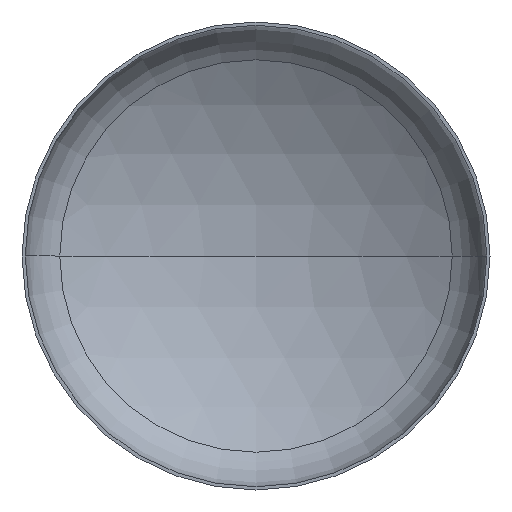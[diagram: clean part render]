
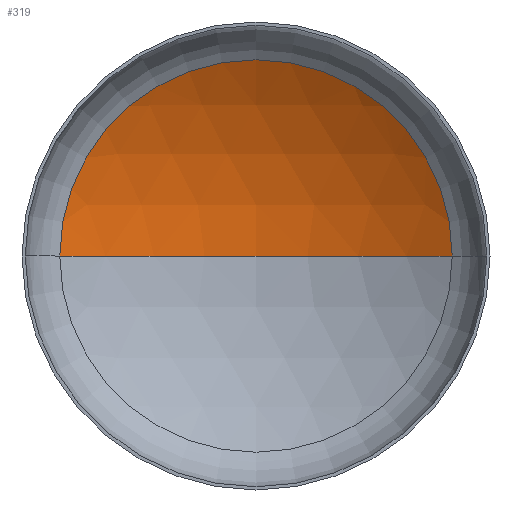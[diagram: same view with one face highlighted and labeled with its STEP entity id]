
A CAD part, front view. The second image highlights one B-rep face of the part: STEP entity #319.
In plain terms, the highlighted spherical face has radius 1600 mm.
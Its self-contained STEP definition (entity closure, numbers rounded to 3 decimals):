
#2 = EDGE_LOOP ( 'NONE', ( #37, #96, #17 ) ) ;
#17 = ORIENTED_EDGE ( 'NONE', *, *, #193, .T. ) ;
#37 = ORIENTED_EDGE ( 'NONE', *, *, #203, .F. ) ;
#42 = AXIS2_PLACEMENT_3D ( 'NONE', #398, #393, #64 ) ;
#64 = DIRECTION ( 'NONE',  ( -1., 0., 0. ) ) ;
#65 = AXIS2_PLACEMENT_3D ( 'NONE', #219, #279, #274 ) ;
#72 = AXIS2_PLACEMENT_3D ( 'NONE', #163, #186, #198 ) ;
#78 = AXIS2_PLACEMENT_3D ( 'NONE', #410, #284, #222 ) ;
#88 = CIRCLE ( 'NONE', #78, 838.45 ) ;
#96 = ORIENTED_EDGE ( 'NONE', *, *, #201, .T. ) ;
#120 = VERTEX_POINT ( 'NONE', #342 ) ;
#136 = VERTEX_POINT ( 'NONE', #261 ) ;
#163 = CARTESIAN_POINT ( 'NONE',  ( 0., -1053.692, 0. ) ) ;
#186 = DIRECTION ( 'NONE',  ( 0., 0., -1. ) ) ;
#193 = EDGE_CURVE ( 'NONE', #218, #136, #88, .T. ) ;
#198 = DIRECTION ( 'NONE',  ( -1., 0., 0. ) ) ;
#201 = EDGE_CURVE ( 'NONE', #120, #218, #397, .T. ) ;
#203 = EDGE_CURVE ( 'NONE', #120, #136, #214, .T. ) ;
#214 = CIRCLE ( 'NONE', #65, 1600. ) ;
#218 = VERTEX_POINT ( 'NONE', #298 ) ;
#219 = CARTESIAN_POINT ( 'NONE',  ( 0., -1053.692, 0. ) ) ;
#222 = DIRECTION ( 'NONE',  ( 1., 0., 0. ) ) ;
#261 = CARTESIAN_POINT ( 'NONE',  ( -838.45, 309.027, 0. ) ) ;
#274 = DIRECTION ( 'NONE',  ( 1., 0., 0. ) ) ;
#279 = DIRECTION ( 'NONE',  ( 0., 0., 1. ) ) ;
#283 = SPHERICAL_SURFACE ( 'NONE', #42, 1600. ) ;
#284 = DIRECTION ( 'NONE',  ( 0., -1., 0. ) ) ;
#298 = CARTESIAN_POINT ( 'NONE',  ( 838.45, 309.027, 0. ) ) ;
#319 = ADVANCED_FACE ( 'NONE', ( #385 ), #283, .F. ) ;
#342 = CARTESIAN_POINT ( 'NONE',  ( 0., 546.308, 0. ) ) ;
#385 = FACE_OUTER_BOUND ( 'NONE', #2, .T. ) ;
#393 = DIRECTION ( 'NONE',  ( 0., 0., -1. ) ) ;
#397 = CIRCLE ( 'NONE', #72, 1600. ) ;
#398 = CARTESIAN_POINT ( 'NONE',  ( 0., -1053.692, 0. ) ) ;
#410 = CARTESIAN_POINT ( 'NONE',  ( 0., 309.027, 0. ) ) ;
